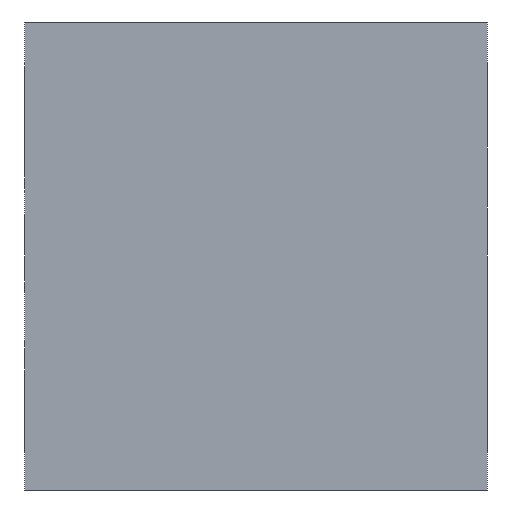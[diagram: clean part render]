
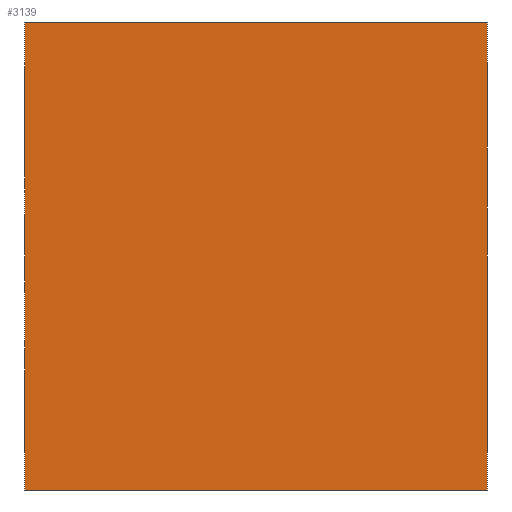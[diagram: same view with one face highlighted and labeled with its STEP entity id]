
A CAD part, left-side view. The second image highlights one B-rep face of the part: STEP entity #3139.
In plain terms, the highlighted planar face has unit normal (-1, 0, 0).
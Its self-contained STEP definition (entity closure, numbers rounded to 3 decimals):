
#24=DIRECTION('',(0.,-1.,0.));
#25=VECTOR('',#24,34.6);
#26=CARTESIAN_POINT('',(-80.,34.6,0.));
#27=LINE('',#26,#25);
#53=DIRECTION('',(0.,0.,1.));
#54=VECTOR('',#53,35.);
#55=CARTESIAN_POINT('',(-80.,34.6,0.));
#56=LINE('',#55,#54);
#320=DIRECTION('',(0.,0.,1.));
#321=VECTOR('',#320,35.);
#322=CARTESIAN_POINT('',(-80.,0.,0.));
#323=LINE('',#322,#321);
#471=DIRECTION('',(0.,-1.,0.));
#472=VECTOR('',#471,34.6);
#473=CARTESIAN_POINT('',(-80.,34.6,35.));
#474=LINE('',#473,#472);
#2816=CARTESIAN_POINT('',(-80.,34.6,0.));
#2817=CARTESIAN_POINT('',(-80.,0.,0.));
#2818=VERTEX_POINT('',#2816);
#2819=VERTEX_POINT('',#2817);
#2824=CARTESIAN_POINT('',(-80.,34.6,35.));
#2825=CARTESIAN_POINT('',(-80.,0.,35.));
#2826=VERTEX_POINT('',#2824);
#2827=VERTEX_POINT('',#2825);
#3125=CARTESIAN_POINT('',(-80.,34.6,0.));
#3126=DIRECTION('',(-1.,0.,0.));
#3127=DIRECTION('',(0.,-1.,0.));
#3128=AXIS2_PLACEMENT_3D('',#3125,#3126,#3127);
#3129=PLANE('',#3128);
#3130=ORIENTED_EDGE('',*,*,#3102,.F.);
#3132=ORIENTED_EDGE('',*,*,#3131,.T.);
#3134=ORIENTED_EDGE('',*,*,#3133,.T.);
#3136=ORIENTED_EDGE('',*,*,#3135,.F.);
#3137=EDGE_LOOP('',(#3130,#3132,#3134,#3136));
#3138=FACE_OUTER_BOUND('',#3137,.F.);
#3102=EDGE_CURVE('',#2818,#2819,#27,.T.);
#3131=EDGE_CURVE('',#2818,#2826,#56,.T.);
#3133=EDGE_CURVE('',#2826,#2827,#474,.T.);
#3135=EDGE_CURVE('',#2819,#2827,#323,.T.);
#3139=ADVANCED_FACE('',(#3138),#3129,.T.);
